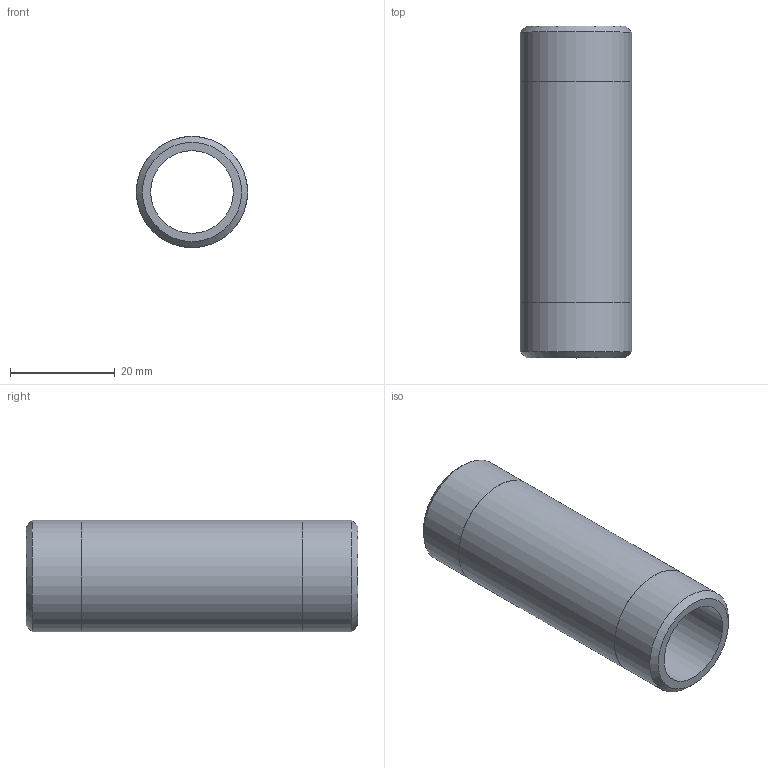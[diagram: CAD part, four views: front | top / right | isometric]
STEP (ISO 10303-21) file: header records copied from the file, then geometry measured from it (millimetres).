
FILE_DESCRIPTION(/* description */ (''),/* implementation_level */ '2;1');
FILE_NAME(/* name */ 'C:/Users/drich/Desktop/SSPN12-2-1_2 v1.step',/* time_stamp */ '2020-01-04T13:05:11-06:00',/* author */ (''),/* organization */ (''),/* preprocessor_version */ 'ST-DEVELOPER v18',/* originating_system */ 'Autodesk Translation Framework v8.12.0.6',/* authorisation */ '');
FILE_SCHEMA (('AUTOMOTIVE_DESIGN { 1 0 10303 214 3 1 1 }'));
Length unit declared in the file: inch
Products named in the file (1): SSPN12-2-1_2
Bounding box: 21.34 x 63.5 x 21.34 mm (x, y, z)
Volume: 10134.5 mm3; surface area: 7634.7 mm2
Topology: 1 solids, 1 shells, 10 faces, 24 edges, 18 vertices
Faces by surface type: cylinder 4, plane 4, cone 2
Full cylindrical faces by diameter (mm): 15.799 x1, 21.285 x2, 21.336 x1
Entity records: 353 total; most frequent: DIRECTION 64, CARTESIAN_POINT 53, ORIENTED_EDGE 48, AXIS2_PLACEMENT_3D 29, EDGE_CURVE 24, CIRCLE 18, VERTEX_POINT 18, EDGE_LOOP 14
